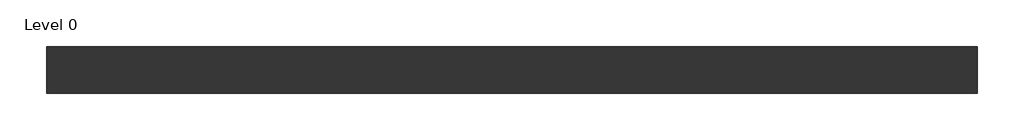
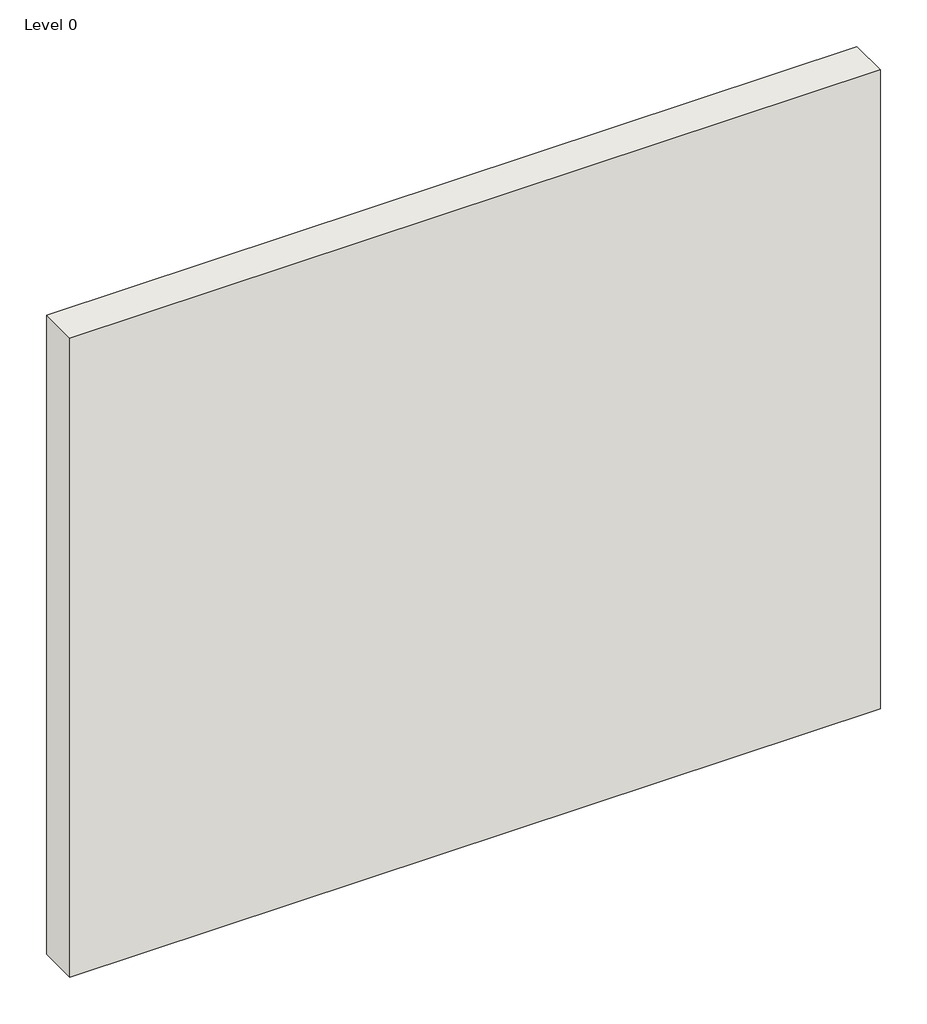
# One storey: 1 wall.
"""IFC4 building model written with IfcOpenShell, lengths in millimetres."""

from ifc_helpers import new_model, si_unit, origin, origin_with_axes, place, context, project, spatial, polyline, outline, extrude, element, save

model = new_model("IFC4")

# Units and contexts
model_context = context("Model", 3, world=origin())
ifc_project = project(units=[si_unit("LENGTHUNIT", "METRE", prefix="MILLI")], contexts=[model_context])

# Site, building, storey
site = spatial("IfcSite", under=ifc_project)
building = spatial("IfcBuilding", under=site)
storey = spatial("IfcBuildingStorey", under=building, Name="Level 0", Elevation=0.0)

# Wall
placement = place(None, origin())
element("IfcWall", 1, ObjectType="A316010 - GypWall QUIET SF", at=placement, inside=storey, context=model_context, shape_type="SweptSolid", body=[
    extrude(outline(polyline([(2116.0807354, 518.7205641), (-883.9192646, 518.7205641), (-883.9192646, 668.7205641), (2116.0807354, 668.7205641), (2116.0807354, 518.7205641)])), origin_with_axes(), (0.0, 0.0, 1.0), 2500.0),
])

save(model, "model.ifc")
